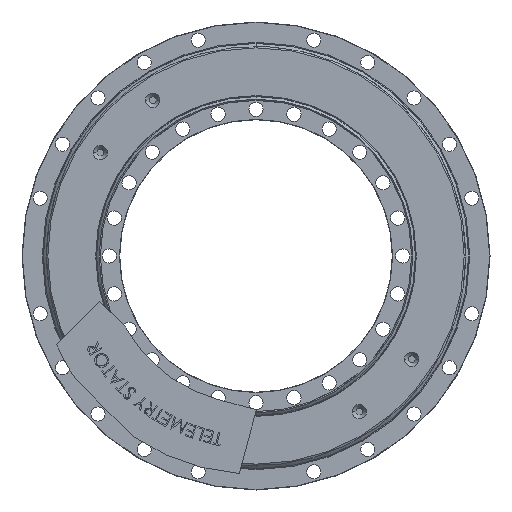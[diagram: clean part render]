
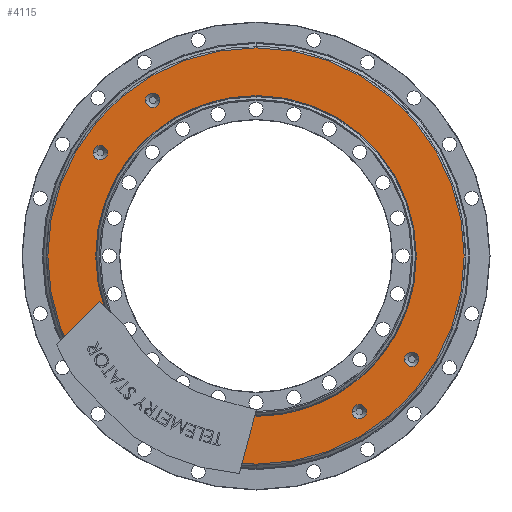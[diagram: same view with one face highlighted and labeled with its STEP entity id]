
A CAD part, front view. The second image highlights one B-rep face of the part: STEP entity #4115.
In plain terms, the highlighted planar face has unit normal (0, -1, 0).
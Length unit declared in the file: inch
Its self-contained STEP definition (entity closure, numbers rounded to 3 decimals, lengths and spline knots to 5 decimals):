
#2 = CARTESIAN_POINT ( 'NONE',  ( 4.25206, -1.035, -2.95849 ) ) ;
#48 = ORIENTED_EDGE ( 'NONE', *, *, #29840, .F. ) ;
#126 = DIRECTION ( 'NONE',  ( 1., 0., 0. ) ) ;
#591 = CARTESIAN_POINT ( 'NONE',  ( -2.75299, -1.035, 4.45756 ) ) ;
#674 = DIRECTION ( 'NONE',  ( 0., -1., 0. ) ) ;
#791 = AXIS2_PLACEMENT_3D ( 'NONE', #29626, #4880, #17562 ) ;
#914 = CIRCLE ( 'NONE', #11473, 0.2055 ) ;
#1158 = DIRECTION ( 'NONE',  ( 1., 0., 0. ) ) ;
#1712 = CIRCLE ( 'NONE', #4631, 4.59 ) ;
#2031 = FACE_BOUND ( 'NONE', #10526, .T. ) ;
#2436 = VERTEX_POINT ( 'NONE', #23539 ) ;
#3338 = VERTEX_POINT ( 'NONE', #6243 ) ;
#3620 = CARTESIAN_POINT ( 'NONE',  ( 2.95849, -1.035, -4.45756 ) ) ;
#3622 = CARTESIAN_POINT ( 'NONE',  ( 0., -1.035, 0. ) ) ;
#3740 = CIRCLE ( 'NONE', #791, 0.2055 ) ;
#3876 = CARTESIAN_POINT ( 'NONE',  ( -5.96, -1.035, 0. ) ) ;
#3936 = DIRECTION ( 'NONE',  ( 0., -1., 0. ) ) ;
#4115 = ADVANCED_FACE ( 'NONE', ( #29339, #29727, #32471, #26578, #2031, #18684 ), #35414, .T. ) ;
#4631 = AXIS2_PLACEMENT_3D ( 'NONE', #22945, #34165, #23127 ) ;
#4880 = DIRECTION ( 'NONE',  ( 0., -1., 0. ) ) ;
#5769 = EDGE_CURVE ( 'NONE', #25640, #20438, #35474, .T. ) ;
#5889 = CARTESIAN_POINT ( 'NONE',  ( -3.16399, -1.035, 4.45756 ) ) ;
#6243 = CARTESIAN_POINT ( 'NONE',  ( -4.59, -1.035, 0. ) ) ;
#6894 = DIRECTION ( 'NONE',  ( 0., -1., 0. ) ) ;
#7642 = DIRECTION ( 'NONE',  ( 0., -1., 0. ) ) ;
#8003 = CIRCLE ( 'NONE', #30236, 0.2055 ) ;
#8208 = ORIENTED_EDGE ( 'NONE', *, *, #32014, .F. ) ;
#9845 = DIRECTION ( 'NONE',  ( 1., 0., 0. ) ) ;
#9929 = EDGE_CURVE ( 'NONE', #20438, #25640, #23907, .T. ) ;
#10402 = CARTESIAN_POINT ( 'NONE',  ( -2.95849, -1.035, 4.45756 ) ) ;
#10526 = EDGE_LOOP ( 'NONE', ( #48, #14057 ) ) ;
#11237 = CIRCLE ( 'NONE', #12961, 0.2055 ) ;
#11473 = AXIS2_PLACEMENT_3D ( 'NONE', #32765, #32589, #9845 ) ;
#12961 = AXIS2_PLACEMENT_3D ( 'NONE', #26273, #3936, #1158 ) ;
#13304 = CARTESIAN_POINT ( 'NONE',  ( 4.45756, -1.035, -2.95849 ) ) ;
#13652 = DIRECTION ( 'NONE',  ( 1., 0., 0. ) ) ;
#13695 = CIRCLE ( 'NONE', #17297, 0.2055 ) ;
#14057 = ORIENTED_EDGE ( 'NONE', *, *, #27632, .F. ) ;
#14327 = DIRECTION ( 'NONE',  ( 0., -1., 0. ) ) ;
#14352 = ORIENTED_EDGE ( 'NONE', *, *, #26720, .T. ) ;
#14563 = EDGE_LOOP ( 'NONE', ( #14352, #22334 ) ) ;
#14903 = EDGE_CURVE ( 'NONE', #23768, #32347, #21569, .T. ) ;
#15702 = ORIENTED_EDGE ( 'NONE', *, *, #34948, .F. ) ;
#15938 = CARTESIAN_POINT ( 'NONE',  ( 5.96, -1.035, 0. ) ) ;
#15987 = EDGE_CURVE ( 'NONE', #22373, #28625, #11237, .T. ) ;
#16181 = AXIS2_PLACEMENT_3D ( 'NONE', #10402, #7642, #18975 ) ;
#16703 = ORIENTED_EDGE ( 'NONE', *, *, #9929, .T. ) ;
#17297 = AXIS2_PLACEMENT_3D ( 'NONE', #3620, #23027, #126 ) ;
#17498 = VERTEX_POINT ( 'NONE', #34676 ) ;
#17562 = DIRECTION ( 'NONE',  ( 1., 0., 0. ) ) ;
#18316 = DIRECTION ( 'NONE',  ( 0., -1., 0. ) ) ;
#18684 = FACE_BOUND ( 'NONE', #20351, .T. ) ;
#18763 = CIRCLE ( 'NONE', #28152, 0.2055 ) ;
#18779 = CARTESIAN_POINT ( 'NONE',  ( 2.75299, -1.035, -4.45756 ) ) ;
#18975 = DIRECTION ( 'NONE',  ( 1., 0., 0. ) ) ;
#18985 = EDGE_LOOP ( 'NONE', ( #16703, #28131 ) ) ;
#20351 = EDGE_LOOP ( 'NONE', ( #32446, #8208 ) ) ;
#20438 = VERTEX_POINT ( 'NONE', #3876 ) ;
#20645 = DIRECTION ( 'NONE',  ( 0., -1., 0. ) ) ;
#21503 = DIRECTION ( 'NONE',  ( 0., -1., 0. ) ) ;
#21547 = AXIS2_PLACEMENT_3D ( 'NONE', #32524, #21503, #32707 ) ;
#21569 = CIRCLE ( 'NONE', #21547, 0.2055 ) ;
#22334 = ORIENTED_EDGE ( 'NONE', *, *, #32503, .T. ) ;
#22373 = VERTEX_POINT ( 'NONE', #29715 ) ;
#22945 = CARTESIAN_POINT ( 'NONE',  ( 0., -1.035, 0. ) ) ;
#23027 = DIRECTION ( 'NONE',  ( 0., -1., 0. ) ) ;
#23127 = DIRECTION ( 'NONE',  ( 1., 0., 0. ) ) ;
#23428 = DIRECTION ( 'NONE',  ( 1., 0., 0. ) ) ;
#23539 = CARTESIAN_POINT ( 'NONE',  ( 4.59, -1.035, 0. ) ) ;
#23768 = VERTEX_POINT ( 'NONE', #591 ) ;
#23907 = CIRCLE ( 'NONE', #28604, 5.96 ) ;
#24548 = DIRECTION ( 'NONE',  ( 1., 0., 0. ) ) ;
#25088 = CARTESIAN_POINT ( 'NONE',  ( -4.25206, -1.035, 2.95849 ) ) ;
#25381 = AXIS2_PLACEMENT_3D ( 'NONE', #29893, #18316, #24548 ) ;
#25640 = VERTEX_POINT ( 'NONE', #15938 ) ;
#25666 = CARTESIAN_POINT ( 'NONE',  ( 0., -1.035, 0. ) ) ;
#25983 = ORIENTED_EDGE ( 'NONE', *, *, #33920, .F. ) ;
#26031 = CIRCLE ( 'NONE', #30127, 4.59 ) ;
#26273 = CARTESIAN_POINT ( 'NONE',  ( 2.95849, -1.035, -4.45756 ) ) ;
#26357 = DIRECTION ( 'NONE',  ( 0., 1., 0. ) ) ;
#26578 = FACE_BOUND ( 'NONE', #32933, .T. ) ;
#26720 = EDGE_CURVE ( 'NONE', #2436, #3338, #1712, .T. ) ;
#27609 = EDGE_LOOP ( 'NONE', ( #32136, #25983 ) ) ;
#27632 = EDGE_CURVE ( 'NONE', #33267, #17498, #18763, .T. ) ;
#27702 = CARTESIAN_POINT ( 'NONE',  ( -4.66306, -1.035, 2.95849 ) ) ;
#28131 = ORIENTED_EDGE ( 'NONE', *, *, #5769, .T. ) ;
#28152 = AXIS2_PLACEMENT_3D ( 'NONE', #13304, #14327, #13652 ) ;
#28604 = AXIS2_PLACEMENT_3D ( 'NONE', #3622, #674, #31661 ) ;
#28625 = VERTEX_POINT ( 'NONE', #18779 ) ;
#28729 = CARTESIAN_POINT ( 'NONE',  ( -4.45756, -1.035, 2.95849 ) ) ;
#29191 = VERTEX_POINT ( 'NONE', #27702 ) ;
#29339 = FACE_BOUND ( 'NONE', #14563, .T. ) ;
#29590 = AXIS2_PLACEMENT_3D ( 'NONE', #32006, #6894, #32192 ) ;
#29626 = CARTESIAN_POINT ( 'NONE',  ( 4.45756, -1.035, -2.95849 ) ) ;
#29669 = CIRCLE ( 'NONE', #16181, 0.2055 ) ;
#29715 = CARTESIAN_POINT ( 'NONE',  ( 3.16399, -1.035, -4.45756 ) ) ;
#29727 = FACE_OUTER_BOUND ( 'NONE', #18985, .T. ) ;
#29747 = VERTEX_POINT ( 'NONE', #25088 ) ;
#29840 = EDGE_CURVE ( 'NONE', #17498, #33267, #3740, .T. ) ;
#29893 = CARTESIAN_POINT ( 'NONE',  ( 0., -1.035, 0. ) ) ;
#30127 = AXIS2_PLACEMENT_3D ( 'NONE', #25666, #26357, #23428 ) ;
#30236 = AXIS2_PLACEMENT_3D ( 'NONE', #28729, #20645, #32046 ) ;
#31661 = DIRECTION ( 'NONE',  ( 1., 0., 0. ) ) ;
#31994 = ORIENTED_EDGE ( 'NONE', *, *, #14903, .F. ) ;
#32006 = CARTESIAN_POINT ( 'NONE',  ( 0., -1.035, 0. ) ) ;
#32014 = EDGE_CURVE ( 'NONE', #28625, #22373, #13695, .T. ) ;
#32046 = DIRECTION ( 'NONE',  ( 1., 0., 0. ) ) ;
#32136 = ORIENTED_EDGE ( 'NONE', *, *, #34799, .F. ) ;
#32192 = DIRECTION ( 'NONE',  ( 1., 0., 0. ) ) ;
#32347 = VERTEX_POINT ( 'NONE', #5889 ) ;
#32446 = ORIENTED_EDGE ( 'NONE', *, *, #15987, .F. ) ;
#32471 = FACE_BOUND ( 'NONE', #27609, .T. ) ;
#32503 = EDGE_CURVE ( 'NONE', #3338, #2436, #26031, .T. ) ;
#32524 = CARTESIAN_POINT ( 'NONE',  ( -2.95849, -1.035, 4.45756 ) ) ;
#32589 = DIRECTION ( 'NONE',  ( 0., -1., 0. ) ) ;
#32707 = DIRECTION ( 'NONE',  ( 1., 0., 0. ) ) ;
#32765 = CARTESIAN_POINT ( 'NONE',  ( -4.45756, -1.035, 2.95849 ) ) ;
#32933 = EDGE_LOOP ( 'NONE', ( #31994, #15702 ) ) ;
#33267 = VERTEX_POINT ( 'NONE', #2 ) ;
#33920 = EDGE_CURVE ( 'NONE', #29191, #29747, #914, .T. ) ;
#34165 = DIRECTION ( 'NONE',  ( 0., 1., 0. ) ) ;
#34676 = CARTESIAN_POINT ( 'NONE',  ( 4.66306, -1.035, -2.95849 ) ) ;
#34799 = EDGE_CURVE ( 'NONE', #29747, #29191, #8003, .T. ) ;
#34948 = EDGE_CURVE ( 'NONE', #32347, #23768, #29669, .T. ) ;
#35414 = PLANE ( 'NONE',  #25381 ) ;
#35474 = CIRCLE ( 'NONE', #29590, 5.96 ) ;
